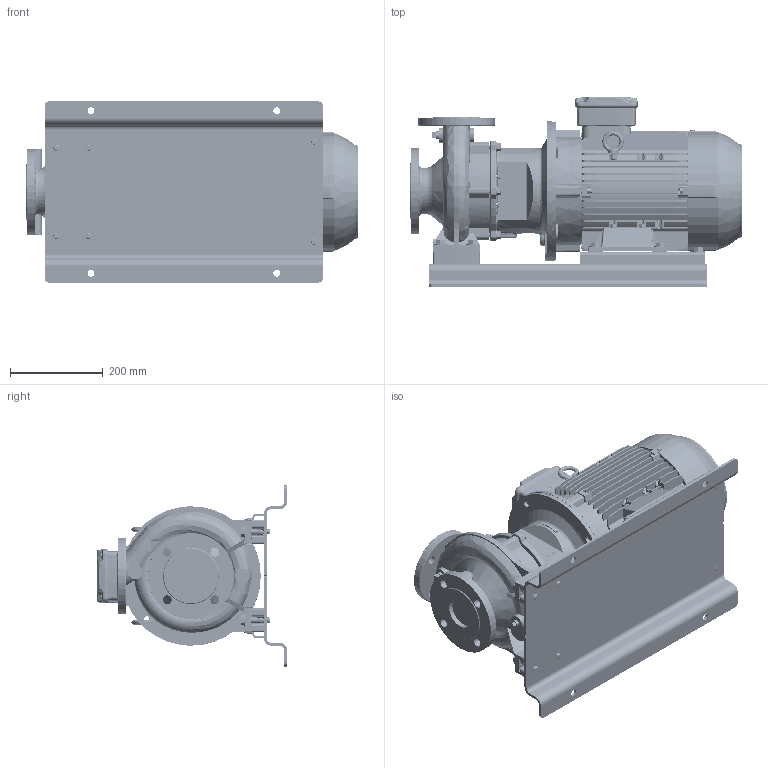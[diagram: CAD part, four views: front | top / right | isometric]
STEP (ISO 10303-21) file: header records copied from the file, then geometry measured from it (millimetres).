
FILE_DESCRIPTION (( 'STEP AP214' ), '1' );
FILE_NAME ('GSD2 50-125_5.5 & 7.5_(132S)_W21_BP.STEP', '2024-04-26T00:36:16', ( '' ), ( '' ), 'SwSTEP 2.0', 'SolidWorks 2019', '' );
FILE_SCHEMA (( 'AUTOMOTIVE_DESIGN' ));
Length unit declared in the file: millimetre
Products named in the file (21): Parametric bolt and washer_SFT-A253B; Parametric bolt_SFT-A253B; Parametric bolt and washer_SFT-A309B; Parametric Flat Washer_M12; 50-125-132S; Parametric Flat Washer_M10; Parametric bolt and washer_SFT-A301B; Parametric bolt_SFT-A301B; 140_178 x 25 - CGSDA-5240; N3S3 GSDA-335 F1-1832907-00; CGS11-5301_2_3_4_5_CGS11-5302; GSD2  50-125_5.5 & 7.5_(132S)_W21_BP; 132S ALIE3_W21T_B35; Parametric bolt_SFT-A309B
Assembly tree (37 placements, depth 3):
  GSD2  50-125_5.5 & 7.5_(132S)_W21_BP
    50-125-132S
    N3S3 GSDA-335 F1-1832907-00
    CGS11-5301_2_3_4_5_CGS11-5302  x2
    140_178 x 25 - CGSDA-5240  x2
    Parametric bolt and washer_SFT-A309B
      Parametric bolt_SFT-A309B
      Parametric Flat Washer_M12
    Parametric bolt and washer_SFT-A309B
      Parametric bolt_SFT-A309B
      Parametric Flat Washer_M12
    Parametric bolt and washer_SFT-A309B
      Parametric bolt_SFT-A309B
      Parametric Flat Washer_M12
    Parametric bolt and washer_SFT-A309B
      Parametric bolt_SFT-A309B
      Parametric Flat Washer_M12
    Parametric bolt and washer_SFT-A301B
      Parametric bolt_SFT-A301B
      Parametric Flat Washer_M12
    Parametric bolt and washer_SFT-A301B
      Parametric bolt_SFT-A301B
      Parametric Flat Washer_M12
    Parametric bolt and washer_SFT-A253B
      Parametric bolt_SFT-A253B
      Parametric Flat Washer_M10
    Parametric bolt and washer_SFT-A253B
      Parametric bolt_SFT-A253B
      Parametric Flat Washer_M10
    Parametric bolt and washer_SFT-A253B
      Parametric bolt_SFT-A253B
      Parametric Flat Washer_M10
    Parametric bolt and washer_SFT-A253B
      Parametric bolt_SFT-A253B
      Parametric Flat Washer_M10
    132S ALIE3_W21T_B35
Bounding box: 714.8 x 410 x 390 mm (x, y, z)
Volume: 28987434.1 mm3; surface area: 2473330.6 mm2
Topology: 39 solids, 39 shells, 4900 faces, 12830 edges, 8348 vertices
Faces by surface type: plane 2923, cylinder 1174, torus 286, bspline 270, cone 215, sphere 32
Entity records: 174236 total; most frequent: CARTESIAN_POINT 55356, ORIENTED_EDGE 23254, DIRECTION 21042, EDGE_CURVE 11627, VECTOR 7788, LINE 7788, VERTEX_POINT 7575, AXIS2_PLACEMENT_3D 6627
